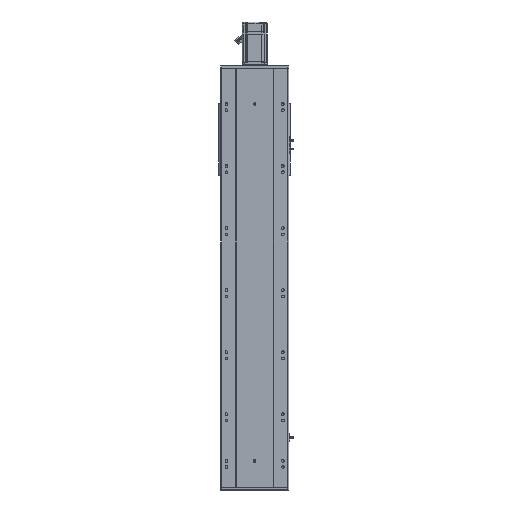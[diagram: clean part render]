
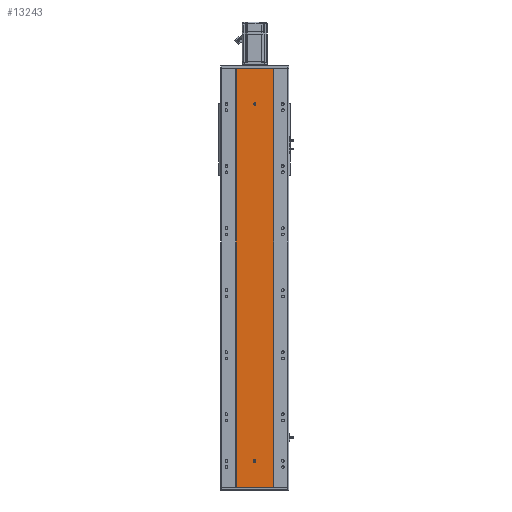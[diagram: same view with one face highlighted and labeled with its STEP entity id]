
A CAD part, front view. The second image highlights one B-rep face of the part: STEP entity #13243.
In plain terms, the highlighted planar face has unit normal (0, -1, 0).
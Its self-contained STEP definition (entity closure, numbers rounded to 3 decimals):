
#3770 = DIRECTION ( 'NONE',  ( 1., 0., 0. ) ) ;
#4097 = CARTESIAN_POINT ( 'NONE',  ( 0., 0., 80.5 ) ) ;
#4157 = VECTOR ( 'NONE', #3770, 1000. ) ;
#5486 = VERTEX_POINT ( 'NONE', #49401 ) ;
#6878 = CARTESIAN_POINT ( 'NONE',  ( 0., 0., 1236. ) ) ;
#7034 = EDGE_LOOP ( 'NONE', ( #11633, #43673 ) ) ;
#8104 = EDGE_CURVE ( 'NONE', #5486, #38984, #71852, .T. ) ;
#9403 = CARTESIAN_POINT ( 'NONE',  ( 60., 0., 0. ) ) ;
#10627 = DIRECTION ( 'NONE',  ( 0., 1., 0. ) ) ;
#11176 = VERTEX_POINT ( 'NONE', #52634 ) ;
#11633 = ORIENTED_EDGE ( 'NONE', *, *, #31280, .F. ) ;
#12573 = CARTESIAN_POINT ( 'NONE',  ( 0., 0., 84.5 ) ) ;
#13243 = ADVANCED_FACE ( 'NONE', ( #50440, #30109, #68572 ), #27262, .F. ) ;
#16285 = CARTESIAN_POINT ( 'NONE',  ( -60., 0., 1350. ) ) ;
#18297 = ORIENTED_EDGE ( 'NONE', *, *, #72233, .F. ) ;
#18993 = DIRECTION ( 'NONE',  ( 0., 0., -1. ) ) ;
#19159 = CIRCLE ( 'NONE', #65447, 4. ) ;
#20192 = VERTEX_POINT ( 'NONE', #26363 ) ;
#20643 = ORIENTED_EDGE ( 'NONE', *, *, #41082, .F. ) ;
#22782 = ORIENTED_EDGE ( 'NONE', *, *, #37037, .F. ) ;
#23637 = DIRECTION ( 'NONE',  ( 0., -1., 0. ) ) ;
#23698 = EDGE_CURVE ( 'NONE', #44494, #26019, #70270, .T. ) ;
#25572 = VECTOR ( 'NONE', #69307, 1000. ) ;
#26019 = VERTEX_POINT ( 'NONE', #9403 ) ;
#26363 = CARTESIAN_POINT ( 'NONE',  ( 4., 0., 84.5 ) ) ;
#27218 = CARTESIAN_POINT ( 'NONE',  ( 0., 0., 1232. ) ) ;
#27262 = PLANE ( 'NONE',  #49483 ) ;
#27899 = DIRECTION ( 'NONE',  ( 0., 0., -1. ) ) ;
#28010 = CARTESIAN_POINT ( 'NONE',  ( 0., 0., 1240. ) ) ;
#28701 = LINE ( 'NONE', #31231, #4157 ) ;
#29744 = EDGE_CURVE ( 'NONE', #53745, #56502, #53378, .T. ) ;
#30032 = CARTESIAN_POINT ( 'NONE',  ( -4., 0., 84.5 ) ) ;
#30109 = FACE_BOUND ( 'NONE', #31641, .T. ) ;
#30240 = CIRCLE ( 'NONE', #41320, 4. ) ;
#31231 = CARTESIAN_POINT ( 'NONE',  ( -60., 0., 1350. ) ) ;
#31280 = EDGE_CURVE ( 'NONE', #56502, #53745, #19159, .T. ) ;
#31641 = EDGE_LOOP ( 'NONE', ( #18297, #20643, #47003, #49204, #62536 ) ) ;
#31940 = VERTEX_POINT ( 'NONE', #39081 ) ;
#32712 = EDGE_CURVE ( 'NONE', #40178, #63906, #58315, .T. ) ;
#33509 = VECTOR ( 'NONE', #60609, 1000. ) ;
#34554 = AXIS2_PLACEMENT_3D ( 'NONE', #46314, #57116, #51958 ) ;
#34593 = DIRECTION ( 'NONE',  ( 0., -1., 0. ) ) ;
#34661 = LINE ( 'NONE', #52817, #61783 ) ;
#35128 = DIRECTION ( 'NONE',  ( 0., 0., -1. ) ) ;
#37037 = EDGE_CURVE ( 'NONE', #11176, #26019, #66724, .T. ) ;
#38984 = VERTEX_POINT ( 'NONE', #4097 ) ;
#39081 = CARTESIAN_POINT ( 'NONE',  ( -60., 0., 1350. ) ) ;
#39428 = EDGE_CURVE ( 'NONE', #31940, #11176, #28701, .T. ) ;
#40178 = VERTEX_POINT ( 'NONE', #71954 ) ;
#40900 = DIRECTION ( 'NONE',  ( 0., -1., 0. ) ) ;
#41082 = EDGE_CURVE ( 'NONE', #38984, #20192, #30240, .T. ) ;
#41225 = DIRECTION ( 'NONE',  ( 0., -1., 0. ) ) ;
#41320 = AXIS2_PLACEMENT_3D ( 'NONE', #62772, #23637, #18993 ) ;
#42270 = LINE ( 'NONE', #30032, #33509 ) ;
#43673 = ORIENTED_EDGE ( 'NONE', *, *, #29744, .F. ) ;
#43746 = CARTESIAN_POINT ( 'NONE',  ( 4., 0., 84.5 ) ) ;
#44494 = VERTEX_POINT ( 'NONE', #57379 ) ;
#44720 = AXIS2_PLACEMENT_3D ( 'NONE', #69196, #41225, #35128 ) ;
#46054 = DIRECTION ( 'NONE',  ( 0., 0., -1. ) ) ;
#46314 = CARTESIAN_POINT ( 'NONE',  ( 0., 0., 87.5 ) ) ;
#47003 = ORIENTED_EDGE ( 'NONE', *, *, #8104, .F. ) ;
#49178 = EDGE_CURVE ( 'NONE', #63906, #5486, #42270, .T. ) ;
#49204 = ORIENTED_EDGE ( 'NONE', *, *, #49178, .F. ) ;
#49401 = CARTESIAN_POINT ( 'NONE',  ( -4., 0., 84.5 ) ) ;
#49483 = AXIS2_PLACEMENT_3D ( 'NONE', #16285, #10627, #66206 ) ;
#50440 = FACE_BOUND ( 'NONE', #7034, .T. ) ;
#51375 = EDGE_LOOP ( 'NONE', ( #72526, #22782, #65236, #66513 ) ) ;
#51958 = DIRECTION ( 'NONE',  ( 0., 0., -1. ) ) ;
#52634 = CARTESIAN_POINT ( 'NONE',  ( 60., 0., 1350. ) ) ;
#52652 = CARTESIAN_POINT ( 'NONE',  ( -4., 0., 87.5 ) ) ;
#52817 = CARTESIAN_POINT ( 'NONE',  ( -60., 0., 1350. ) ) ;
#53378 = CIRCLE ( 'NONE', #44720, 4. ) ;
#53745 = VERTEX_POINT ( 'NONE', #28010 ) ;
#56430 = DIRECTION ( 'NONE',  ( 0., 0., -1. ) ) ;
#56502 = VERTEX_POINT ( 'NONE', #27218 ) ;
#57116 = DIRECTION ( 'NONE',  ( 0., -1., 0. ) ) ;
#57379 = CARTESIAN_POINT ( 'NONE',  ( -60., 0., 0. ) ) ;
#58315 = CIRCLE ( 'NONE', #34554, 4. ) ;
#59645 = VECTOR ( 'NONE', #27899, 1000. ) ;
#59699 = DIRECTION ( 'NONE',  ( 0., 0., 1. ) ) ;
#60609 = DIRECTION ( 'NONE',  ( 0., 0., -1. ) ) ;
#61430 = CARTESIAN_POINT ( 'NONE',  ( 60., 0., 1350. ) ) ;
#61783 = VECTOR ( 'NONE', #64556, 1000. ) ;
#62536 = ORIENTED_EDGE ( 'NONE', *, *, #32712, .F. ) ;
#62772 = CARTESIAN_POINT ( 'NONE',  ( 0., 0., 84.5 ) ) ;
#63906 = VERTEX_POINT ( 'NONE', #52652 ) ;
#64556 = DIRECTION ( 'NONE',  ( 0., 0., -1. ) ) ;
#65236 = ORIENTED_EDGE ( 'NONE', *, *, #39428, .F. ) ;
#65447 = AXIS2_PLACEMENT_3D ( 'NONE', #6878, #40900, #46054 ) ;
#66206 = DIRECTION ( 'NONE',  ( 0., 0., 1. ) ) ;
#66513 = ORIENTED_EDGE ( 'NONE', *, *, #69697, .T. ) ;
#66724 = LINE ( 'NONE', #61430, #59645 ) ;
#67522 = AXIS2_PLACEMENT_3D ( 'NONE', #12573, #34593, #56430 ) ;
#67738 = LINE ( 'NONE', #43746, #71244 ) ;
#68572 = FACE_OUTER_BOUND ( 'NONE', #51375, .T. ) ;
#68583 = CARTESIAN_POINT ( 'NONE',  ( -60., 0., 0. ) ) ;
#69196 = CARTESIAN_POINT ( 'NONE',  ( 0., 0., 1236. ) ) ;
#69307 = DIRECTION ( 'NONE',  ( 1., 0., 0. ) ) ;
#69697 = EDGE_CURVE ( 'NONE', #31940, #44494, #34661, .T. ) ;
#70270 = LINE ( 'NONE', #68583, #25572 ) ;
#71244 = VECTOR ( 'NONE', #59699, 1000. ) ;
#71852 = CIRCLE ( 'NONE', #67522, 4. ) ;
#71954 = CARTESIAN_POINT ( 'NONE',  ( 4., 0., 87.5 ) ) ;
#72233 = EDGE_CURVE ( 'NONE', #20192, #40178, #67738, .T. ) ;
#72526 = ORIENTED_EDGE ( 'NONE', *, *, #23698, .T. ) ;
